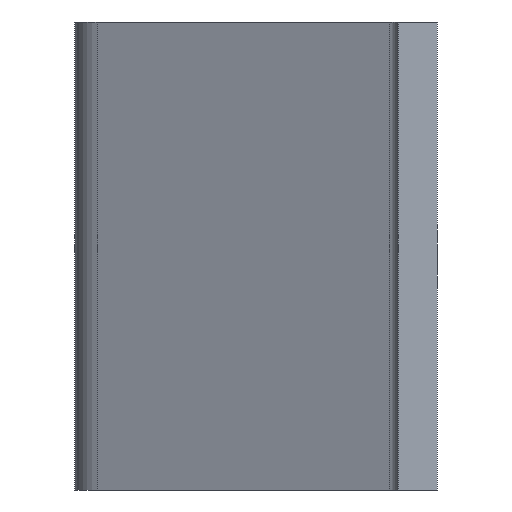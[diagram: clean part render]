
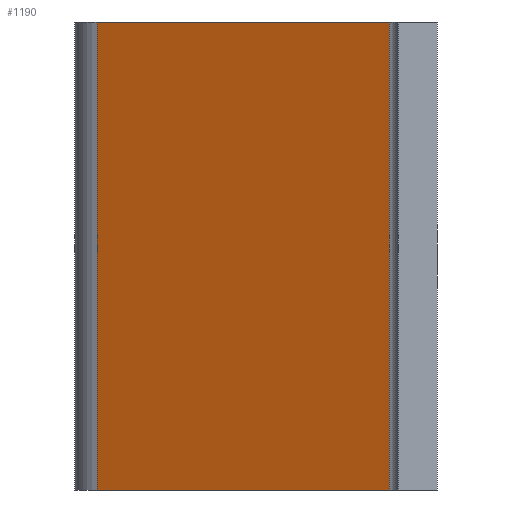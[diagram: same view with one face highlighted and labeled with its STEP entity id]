
A CAD part, front view. The second image highlights one B-rep face of the part: STEP entity #1190.
In plain terms, the highlighted planar face has unit normal (-0.422, -0.906, 0).
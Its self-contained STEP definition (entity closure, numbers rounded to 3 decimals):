
#12 = CARTESIAN_POINT ( 'NONE',  ( -6.156, 50.432, -60. ) ) ;
#49 = AXIS2_PLACEMENT_3D ( 'NONE', #1397, #1537, #107 ) ;
#64 = VERTEX_POINT ( 'NONE', #254 ) ;
#80 = PLANE ( 'NONE',  #49 ) ;
#107 = DIRECTION ( 'NONE',  ( 0.907, -0.422, 0. ) ) ;
#160 = VECTOR ( 'NONE', #1467, 1000. ) ;
#254 = CARTESIAN_POINT ( 'NONE',  ( -6.156, 50.432, 0. ) ) ;
#362 = CARTESIAN_POINT ( 'NONE',  ( -43.611, 67.875, 0. ) ) ;
#379 = DIRECTION ( 'NONE',  ( 0., 0., 1. ) ) ;
#445 = VECTOR ( 'NONE', #379, 1000. ) ;
#543 = EDGE_CURVE ( 'NONE', #912, #1263, #1465, .T. ) ;
#602 = EDGE_CURVE ( 'NONE', #912, #1391, #734, .T. ) ;
#632 = DIRECTION ( 'NONE',  ( 0.907, -0.422, 0. ) ) ;
#726 = CARTESIAN_POINT ( 'NONE',  ( -43.611, 67.875, 0. ) ) ;
#734 = LINE ( 'NONE', #1417, #1241 ) ;
#799 = LINE ( 'NONE', #726, #160 ) ;
#824 = VECTOR ( 'NONE', #830, 1000. ) ;
#830 = DIRECTION ( 'NONE',  ( 0., 0., 1. ) ) ;
#848 = ORIENTED_EDGE ( 'NONE', *, *, #602, .T. ) ;
#886 = EDGE_CURVE ( 'NONE', #1263, #64, #799, .T. ) ;
#912 = VERTEX_POINT ( 'NONE', #1607 ) ;
#1043 = ORIENTED_EDGE ( 'NONE', *, *, #543, .F. ) ;
#1081 = CARTESIAN_POINT ( 'NONE',  ( -43.611, 67.875, -60. ) ) ;
#1190 = ADVANCED_FACE ( 'NONE', ( #1521 ), #80, .T. ) ;
#1241 = VECTOR ( 'NONE', #632, 1000. ) ;
#1247 = ORIENTED_EDGE ( 'NONE', *, *, #1526, .T. ) ;
#1263 = VERTEX_POINT ( 'NONE', #362 ) ;
#1286 = LINE ( 'NONE', #12, #445 ) ;
#1391 = VERTEX_POINT ( 'NONE', #1568 ) ;
#1397 = CARTESIAN_POINT ( 'NONE',  ( -43.611, 67.875, -60. ) ) ;
#1417 = CARTESIAN_POINT ( 'NONE',  ( -43.611, 67.875, -60. ) ) ;
#1436 = ORIENTED_EDGE ( 'NONE', *, *, #886, .F. ) ;
#1465 = LINE ( 'NONE', #1081, #824 ) ;
#1466 = EDGE_LOOP ( 'NONE', ( #1436, #1043, #848, #1247 ) ) ;
#1467 = DIRECTION ( 'NONE',  ( 0.907, -0.422, 0. ) ) ;
#1521 = FACE_OUTER_BOUND ( 'NONE', #1466, .T. ) ;
#1526 = EDGE_CURVE ( 'NONE', #1391, #64, #1286, .T. ) ;
#1537 = DIRECTION ( 'NONE',  ( -0.422, -0.907, 0. ) ) ;
#1568 = CARTESIAN_POINT ( 'NONE',  ( -6.156, 50.432, -60. ) ) ;
#1607 = CARTESIAN_POINT ( 'NONE',  ( -43.611, 67.875, -60. ) ) ;
